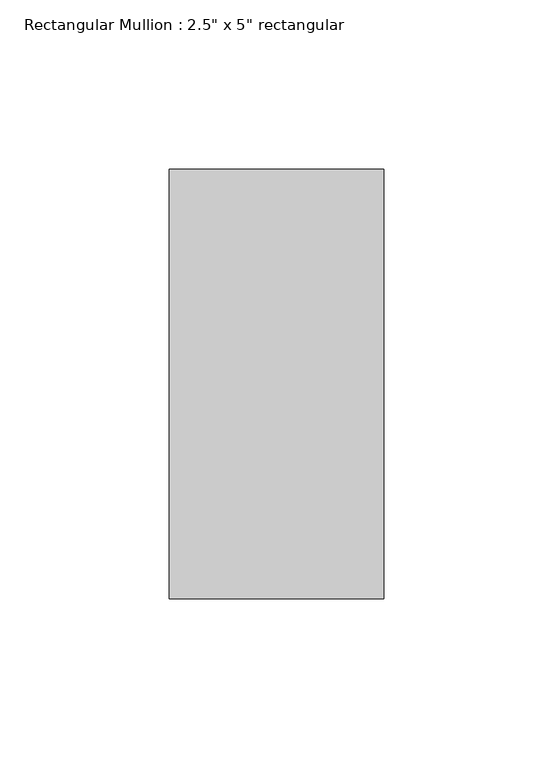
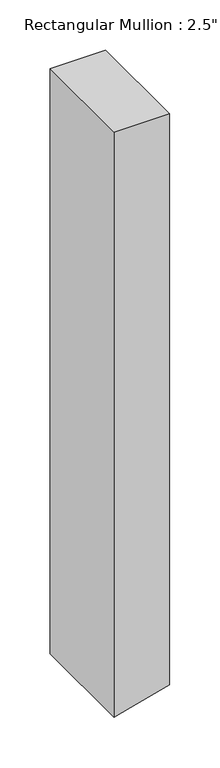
"""IFC4 building model written with IfcOpenShell, lengths in millimetres: member geometry."""

import ifcopenshell
import ifcopenshell.guid

model = None  # the IFC model being written
_history = None  # IfcOwnerHistory: only IFC2X3 demands one
_inside = {}  # id of a spatial element -> (the spatial element, [elements in it])
_under = {}  # id of a project, library or spatial element -> (it, [spatial elements below it])
_declared = {}  # id of a project -> (the project, [libraries it declares])
_typed = {}  # id of a type object -> (the type object, [elements of that type])
_made_of = {}  # id of a material, layer set ... -> (it, [elements and type objects made of it])


def new_model(schema):
    """Start an empty IFC model of exactly this schema.

    Asked for "IFC4X3", IfcOpenShell would pick the latest addendum, in which some entities
    have other attributes; the version numbers below select the first issue.
    IFC2X3 requires an IfcOwnerHistory on every rooted entity: one is made here for all.
    """
    global model, _history
    if schema == "IFC4X3":
        model = ifcopenshell.file(schema_version=(4, 3, 0, 0))
    else:
        model = ifcopenshell.file(schema=schema)
    _inside.clear()
    _under.clear()
    _declared.clear()
    _typed.clear()
    _made_of.clear()
    _history = None
    if model.schema == "IFC2X3":
        org = make("IfcOrganization", Name="unknown")
        user = make(
            "IfcPersonAndOrganization",
            ThePerson=make("IfcPerson", FamilyName="unknown"),
            TheOrganization=org,
        )
        app = make(
            "IfcApplication",
            ApplicationDeveloper=org,
            Version="unknown",
            ApplicationFullName="unknown",
            ApplicationIdentifier="unknown",
        )
        _history = make(
            "IfcOwnerHistory",
            OwningUser=user,
            OwningApplication=app,
            ChangeAction="ADDED",
            CreationDate=0,
        )
    return model


def make(cls, **values):
    """One entity of the class cls with the attributes given. An attribute that is None is left unset."""
    return model.create_entity(
        cls, **{name: value for name, value in values.items() if value is not None}
    )


def rooted(cls, **values):
    """An entity with a GlobalId (a new one), such as an element, a storey or a relation."""
    return make(cls, GlobalId=ifcopenshell.guid.new(), OwnerHistory=_history, **values)


def si_unit(unit_type, name, prefix=None):
    """IfcSIUnit, for example si_unit("LENGTHUNIT", "METRE", prefix="MILLI")."""
    return make("IfcSIUnit", UnitType=unit_type, Prefix=prefix, Name=name)


def assignment(units):
    """IfcUnitAssignment: the units of a project."""
    return None if units is None else make("IfcUnitAssignment", Units=units)


def point(xyz):
    """IfcCartesianPoint."""
    return None if xyz is None else make("IfcCartesianPoint", Coordinates=xyz)


def direction(xyz):
    """IfcDirection."""
    return None if xyz is None else make("IfcDirection", DirectionRatios=xyz)


def frame(location, z_axis=None, x_axis=None):
    """IfcAxis2Placement3D, a coordinate frame: its origin and axes. An axis left out is left unset."""
    return make(
        "IfcAxis2Placement3D",
        Location=point(location),
        Axis=direction(z_axis),
        RefDirection=direction(x_axis),
    )


def origin():
    """The frame at (0, 0, 0) with its axes left unset."""
    return frame((0.0, 0.0, 0.0))


def place(relative_to, where):
    """IfcLocalPlacement: puts the frame where relative to a parent placement (None: the world)."""
    return make(
        "IfcLocalPlacement", PlacementRelTo=relative_to, RelativePlacement=where
    )


def context(
    kind, dimensions, precision=None, world=None, true_north=None, identifier=None
):
    """IfcGeometricRepresentationContext, for example the 3D "Model" context."""
    return make(
        "IfcGeometricRepresentationContext",
        ContextIdentifier=identifier,
        ContextType=kind,
        CoordinateSpaceDimension=dimensions,
        Precision=precision,
        WorldCoordinateSystem=world,
        TrueNorth=true_north,
    )


def project(units=None, contexts=None):
    """IfcProject with its units and contexts."""
    return rooted(
        "IfcProject",
        Name="project",
        RepresentationContexts=contexts,
        UnitsInContext=assignment(units),
    )


def spatial(cls, under=None, at=None, **own):
    """A site, building, storey or space (cls), placed at a placement, below another one or the project."""
    s = rooted(cls, ObjectPlacement=at, **own)
    if under is not None:
        _under.setdefault(under.id(), (under, []))[1].append(s)
    return s


def circle_curve(where, radius):
    """IfcCircle in the frame where."""
    return make("IfcCircle", Position=where, Radius=radius)


def shape(context_of_items, identifier, shape_type, items):
    """IfcShapeRepresentation: the items that make up one representation, for example the "Body"."""
    return make(
        "IfcShapeRepresentation",
        ContextOfItems=context_of_items,
        RepresentationIdentifier=identifier,
        RepresentationType=shape_type,
        Items=items,
    )


def source(mapping_origin, context_of_items, identifier, shape_type, items):
    """IfcRepresentationMap: a shape defined once, which mapped items show again and again."""
    return make(
        "IfcRepresentationMap",
        MappingOrigin=mapping_origin,
        MappedRepresentation=shape(context_of_items, identifier, shape_type, items),
    )


def transform(
    local_origin,
    x_axis=None,
    y_axis=None,
    z_axis=None,
    scale=None,
    scale2=None,
    scale3=None,
    uniform=True,
):
    """IfcCartesianTransformationOperator3D, or its non-uniform kind. x_axis, y_axis, z_axis: its Axis1, 2, 3."""
    if uniform:
        return make(
            "IfcCartesianTransformationOperator3D",
            Axis1=direction(x_axis),
            Axis2=direction(y_axis),
            LocalOrigin=point(local_origin),
            Scale=scale,
            Axis3=direction(z_axis),
        )
    return make(
        "IfcCartesianTransformationOperator3DnonUniform",
        Axis1=direction(x_axis),
        Axis2=direction(y_axis),
        LocalOrigin=point(local_origin),
        Scale=scale,
        Axis3=direction(z_axis),
        Scale2=scale2,
        Scale3=scale3,
    )


def mapped(mapping_source, mapping_target):
    """IfcMappedItem: shows the shape of a source again, moved by a transform."""
    return make(
        "IfcMappedItem", MappingSource=mapping_source, MappingTarget=mapping_target
    )


def made_of(thing, what):
    """Note that an element or type object is made of a material, layer set ...; save() writes the relation."""
    if what is not None:
        _made_of.setdefault(what.id(), (what, []))[1].append(thing)
    return thing


def element(
    cls,
    number,
    at=None,
    inside=None,
    cuts=None,
    type_object=None,
    material=None,
    context=None,
    identifier="Body",
    shape_type=None,
    held_by="IfcProductDefinitionShape",
    body=None,
    shapes=None,
    **own,
):
    """One element of the class cls, such as IfcWall. Its Tag is "e" and its number.

    at: its placement. inside: the storey or other place that contains it. cuts: it is an
    opening in that element (IfcRelVoidsElement). A single representation is given by context,
    identifier, shape_type and body (its items); several are given by shapes. held_by: the class
    of the entity that holds the representations. save() writes the other relations.
    """
    e = rooted(cls, Tag="e%d" % number, ObjectPlacement=at, **own)
    if body is not None:
        shapes = [shape(context, identifier, shape_type, body)]
    if shapes is not None:
        e.Representation = make(held_by, Representations=shapes)
    if inside is not None:
        _inside.setdefault(inside.id(), (inside, []))[1].append(e)
    if cuts is not None:
        rooted(
            "IfcRelVoidsElement", RelatingBuildingElement=cuts, RelatedOpeningElement=e
        )
    if type_object is not None:
        _typed.setdefault(type_object.id(), (type_object, []))[1].append(e)
    return made_of(e, material)


def aggregate(whole, parts):
    """IfcRelAggregates: a whole, such as a stair, and the parts it consists of."""
    return rooted("IfcRelAggregates", RelatingObject=whole, RelatedObjects=parts)


def save(model, path):
    """Write the relations noted so far, then the file.

    IfcRelAggregates (storeys below a building ...), IfcRelContainedInSpatialStructure (elements
    in a storey), IfcRelDefinesByType, IfcRelAssociatesMaterial and IfcRelDeclares: one each for
    every whole, place, type object, material and project.
    """
    for whole, parts in _under.values():
        aggregate(whole, parts)
    for where, things in _inside.values():
        rooted(
            "IfcRelContainedInSpatialStructure",
            RelatedElements=things,
            RelatingStructure=where,
        )
    for kind, things in _typed.values():
        rooted("IfcRelDefinesByType", RelatedObjects=things, RelatingType=kind)
    for what, things in _made_of.values():
        rooted("IfcRelAssociatesMaterial", RelatedObjects=things, RelatingMaterial=what)
    for by, libraries in _declared.values():
        rooted("IfcRelDeclares", RelatingContext=by, RelatedDefinitions=libraries)
    model.write(path)


def plane_surface(at):
    """IfcPlane: the flat surface through the origin of the frame at, square to its z axis."""
    return make("IfcPlane", Position=at)


def cylinder_surface(at, radius):
    """IfcCylindricalSurface: all points at the distance radius from the z axis of the frame at."""
    return make("IfcCylindricalSurface", Position=at, Radius=radius)


def advanced_brep(points, edges, surfaces, faces):
    """IfcAdvancedBrep: a solid bounded by faces that lie on surfaces and meet in shared edges.

    An edge is (start, end): straight between two places in points (the first is 0);
    or (start, end, curve); or (start, end, curve, False) where it runs against its curve.
    A face is (place in surfaces, loops), or (place, loops, False) where it looks against
    its surface's normal. A loop lists edges by number (the first is 1), with a minus sign
    where the edge is run from its end to its start. The first loop is the outer one.
    """
    corners = [point(p) for p in points]
    vertices = [make("IfcVertexPoint", VertexGeometry=c) for c in corners]
    made = []
    for start, end, *more in edges:
        made.append(
            make(
                "IfcEdgeCurve",
                EdgeStart=vertices[start],
                EdgeEnd=vertices[end],
                EdgeGeometry=more[0] if more else make("IfcPolyline", Points=[corners[start], corners[end]]),
                SameSense=more[1] if len(more) > 1 else True,
            )
        )
    hull = []
    for where, loops, *sense in faces:
        bounds = []
        for j, loop in enumerate(loops):
            ring = [make("IfcOrientedEdge", EdgeElement=made[abs(k) - 1], Orientation=k > 0) for k in loop]
            bounds.append(
                make(
                    "IfcFaceOuterBound" if j == 0 else "IfcFaceBound",
                    Bound=make("IfcEdgeLoop", EdgeList=ring),
                    Orientation=True,
                )
            )
        hull.append(make("IfcAdvancedFace", Bounds=bounds, FaceSurface=surfaces[where], SameSense=sense[0] if sense else True))
    return make("IfcAdvancedBrep", Outer=make("IfcClosedShell", CfsFaces=hull))


def member_627026b5(model_context):
    return source(origin(), model_context, "Body", "AdvancedBrep", [
        advanced_brep(
        [(31.75, 63.5, 0.0), (-31.75, 63.5, 0.0), (-31.75, -63.5, 0.0), (31.75, -63.5, 0.0), (31.75, 63.5, -692.2038022), (-16.3871388, 63.5, -705.4144545), (-31.75, 63.5, -709.4823924), (-31.75, -63.5, -709.4823924), (-16.3871388, -63.5, -705.4144545), (31.75, -63.5, -692.2038022)],
        [
            (0, 1),
            (1, 2),
            (2, 3),
            (3, 0),
            (0, 4),
            (4, 5, circle_curve(frame((-960.5691072, 63.5, 2829.3140133), z_axis=(0.0, 1.0, 0.0), x_axis=(0.4712709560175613, 0.0, -0.8819884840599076)), 3658.6588985)),
            (5, 6, circle_curve(frame((-960.5691072, 63.5, 2829.3140133), z_axis=(0.0, 1.0, 0.0), x_axis=(0.25806773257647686, 0.0, -0.966126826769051)), 3658.6588985)),
            (6, 1),
            (6, 7),
            (7, 2),
            (7, 8, circle_curve(frame((-960.5691072, -63.5, 2829.3140133), z_axis=(0.0, -1.0, 0.0), x_axis=(0.25806773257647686, 0.0, -0.966126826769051)), 3658.6588985)),
            (8, 9, circle_curve(frame((-960.5691072, -63.5, 2829.3140133), z_axis=(0.0, -1.0, 0.0), x_axis=(0.4712709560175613, 0.0, -0.8819884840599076)), 3658.6588985)),
            (9, 3),
            (9, 4),
            (8, 5),
        ],
        [
            plane_surface(frame((0.0, -70.9951583, 0.0), z_axis=(0.0, 0.0, 1.0), x_axis=(-1.0, 0.0, 0.0))),
            plane_surface(frame((31.75, 63.5, 0.0), z_axis=(0.0, 1.0, 0.0), x_axis=(0.0, 0.0, -1.0))),
            plane_surface(frame((-31.75, 63.5, 0.0), z_axis=(-1.0, 0.0, 0.0), x_axis=(0.0, 0.0, -1.0))),
            plane_surface(frame((-31.75, -63.5, 0.0), z_axis=(0.0, -1.0, 0.0), x_axis=(0.0, 0.0, -1.0))),
            plane_surface(frame((31.75, -63.5, 0.0), z_axis=(1.0, 0.0, 0.0), x_axis=(0.0, 0.0, -1.0))),
            cylinder_surface(frame((-960.5691072, 0.0, 2829.3140133), z_axis=(0.0, 1.0, 0.0), x_axis=(0.4712709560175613, 0.0, -0.8819884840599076)), 3658.6588985),
            cylinder_surface(frame((-960.5691072, 0.0, 2829.3140133), z_axis=(0.0, 1.0, 0.0), x_axis=(0.25806773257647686, 0.0, -0.966126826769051)), 3658.6588985),
        ],
        [
            (0, [[1, 2, 3, 4]]),
            (1, [[-1, 5, 6, 7, 8]]),
            (2, [[-2, -8, 9, 10]]),
            (3, [[-3, -10, 11, 12, 13]]),
            (4, [[-4, -13, 14, -5]]),
            (5, [[-14, -12, 15, -6]]),
            (6, [[-11, -9, -7, -15]]),
        ],
    ),
    ])


if __name__ == "__main__":
    model = new_model("IFC4")
    model_context = context("Model", 3, world=origin())
    ifc_project = project(units=[si_unit("LENGTHUNIT", "METRE", prefix="MILLI")], contexts=[model_context])
    site = spatial("IfcSite", under=ifc_project)
    building = spatial("IfcBuilding", under=site)
    placement = place(None, origin())
    member_shape = member_627026b5(model_context)
    element("IfcMember", 1, ObjectType="Rectangular Mullion : 2.5\" x 5\" rectangular", at=placement, inside=building, context=model_context, shape_type="MappedRepresentation", body=[
        mapped(member_shape, transform((0.0, 0.0, 0.0), x_axis=(1.0, 0.0, 0.0), y_axis=(0.0, 1.0, 0.0), z_axis=(0.0, 0.0, 1.0))),
    ])
    save(model, "model.ifc")
